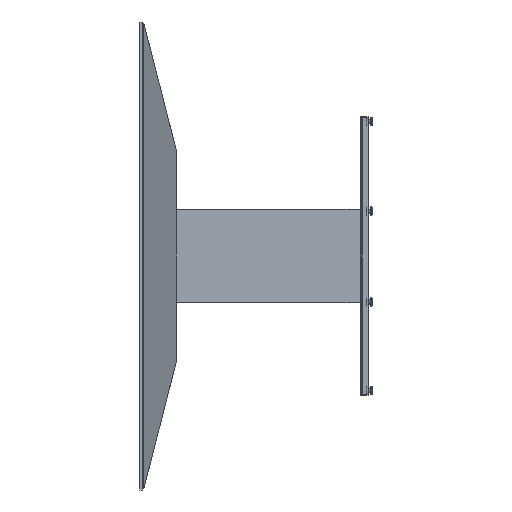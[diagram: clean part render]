
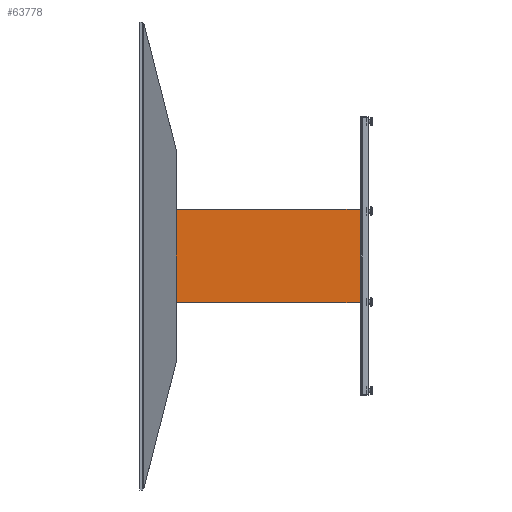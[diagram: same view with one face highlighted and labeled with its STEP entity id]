
A CAD part, left-side view. The second image highlights one B-rep face of the part: STEP entity #63778.
In plain terms, the highlighted planar face has unit normal (-1, 0, 0) as drawn and (0, 0, -1) by its records, which use the part's own axes.
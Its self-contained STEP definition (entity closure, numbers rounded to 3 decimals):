
#6813=FACE_OUTER_BOUND('',#10324,.T.);
#10324=EDGE_LOOP('',(#44036,#44037,#44038,#44039));
#14323=LINE('',#92754,#21381);
#14328=LINE('',#92763,#21386);
#14332=LINE('',#92771,#21390);
#14333=LINE('',#92773,#21391);
#21381=VECTOR('',#74608,0.394);
#21386=VECTOR('',#74615,0.394);
#21390=VECTOR('',#74623,0.394);
#21391=VECTOR('',#74626,0.394);
#28342=VERTEX_POINT('',#92751);
#28343=VERTEX_POINT('',#92753);
#28346=VERTEX_POINT('',#92761);
#28348=VERTEX_POINT('',#92769);
#34452=EDGE_CURVE('',#28342,#28343,#14323,.T.);
#34457=EDGE_CURVE('',#28346,#28342,#14328,.F.);
#34461=EDGE_CURVE('',#28348,#28346,#14332,.T.);
#34462=EDGE_CURVE('',#28343,#28348,#14333,.F.);
#44036=ORIENTED_EDGE('',*,*,#34462,.F.);
#44037=ORIENTED_EDGE('',*,*,#34452,.F.);
#44038=ORIENTED_EDGE('',*,*,#34457,.F.);
#44039=ORIENTED_EDGE('',*,*,#34461,.F.);
#61322=PLANE('',#68619);
#63778=ADVANCED_FACE('',(#6813),#61322,.F.);
#68619=AXIS2_PLACEMENT_3D('',#92774,#74627,#74628);
#74608=DIRECTION('',(0.,-1.,0.));
#74615=DIRECTION('',(1.,0.,0.));
#74623=DIRECTION('',(0.,1.,0.));
#74626=DIRECTION('',(-1.,0.,0.));
#74627=DIRECTION('center_axis',(0.,0.,1.));
#74628=DIRECTION('ref_axis',(1.,0.,0.));
#92751=CARTESIAN_POINT('',(0.,23.715,0.));
#92753=CARTESIAN_POINT('',(0.,0.035,0.));
#92754=CARTESIAN_POINT('',(0.,23.75,0.));
#92761=CARTESIAN_POINT('',(12.,23.715,0.));
#92763=CARTESIAN_POINT('',(3.,23.715,0.));
#92769=CARTESIAN_POINT('',(12.,0.035,0.));
#92771=CARTESIAN_POINT('',(12.,0.,0.));
#92773=CARTESIAN_POINT('',(9.,0.035,0.));
#92774=CARTESIAN_POINT('Origin',(6.,11.875,0.));
